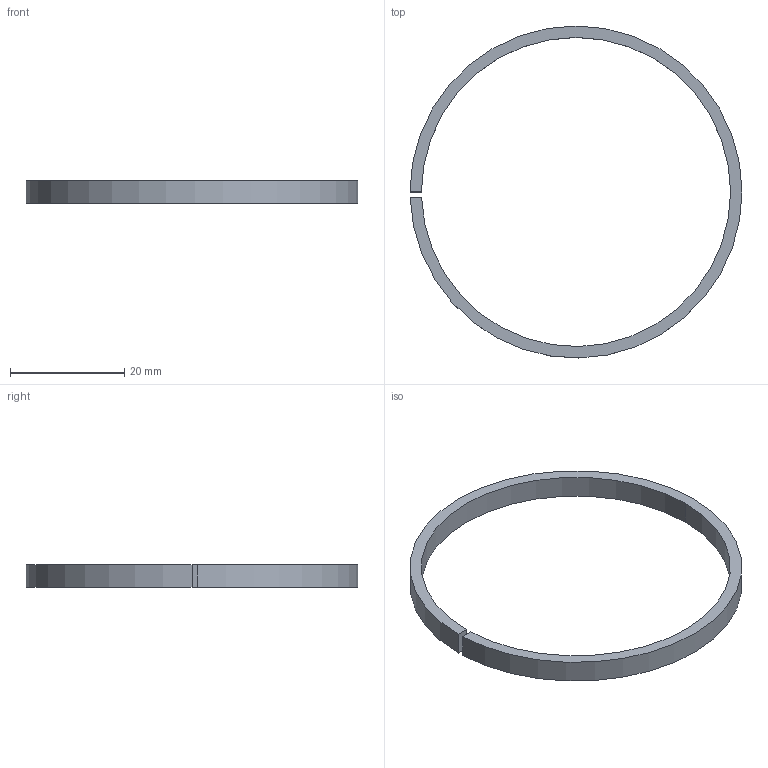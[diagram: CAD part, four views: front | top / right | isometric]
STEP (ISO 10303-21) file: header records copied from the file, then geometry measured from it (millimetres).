
FILE_DESCRIPTION(/* description */ ('VariCAD 2008 3.04 AP-203'),/* implementation_level */ '2;1');
FILE_NAME(/* name */ '0353-19-08',/* time_stamp */ '2009-04-22T19:18:09-06:00',/* author */ (''),/* organization */ (''),/* preprocessor_version */ 'ST-DEVELOPER v12',/* originating_system */ 'VariCAD 2008 3.04; kernel version (20080715)',/* authorisation */ '');
FILE_SCHEMA (('CONFIG_CONTROL_DESIGN'));
Length unit declared in the file: millimetre
Products named in the file (1): Part
Bounding box: 58 x 58 x 4 mm (x, y, z)
Volume: 1399.4 mm3; surface area: 2115.2 mm2
Topology: 1 solids, 1 shells, 8 faces, 18 edges, 12 vertices
Faces by surface type: cylinder 4, plane 4
Entity records: 276 total; most frequent: DIRECTION 46, CARTESIAN_POINT 40, ORIENTED_EDGE 36, EDGE_CURVE 18, AXIS2_PLACEMENT_3D 18, VERTEX_POINT 12, LINE 10, VECTOR 10
